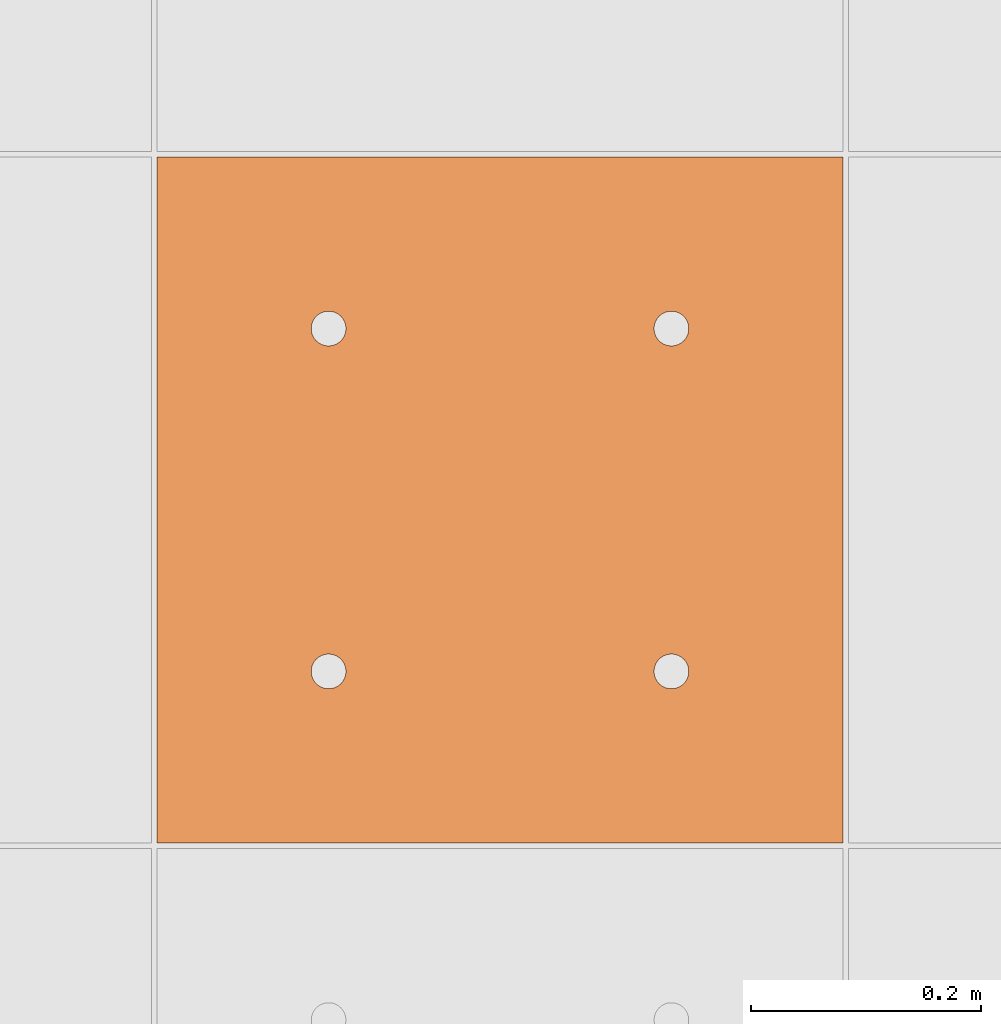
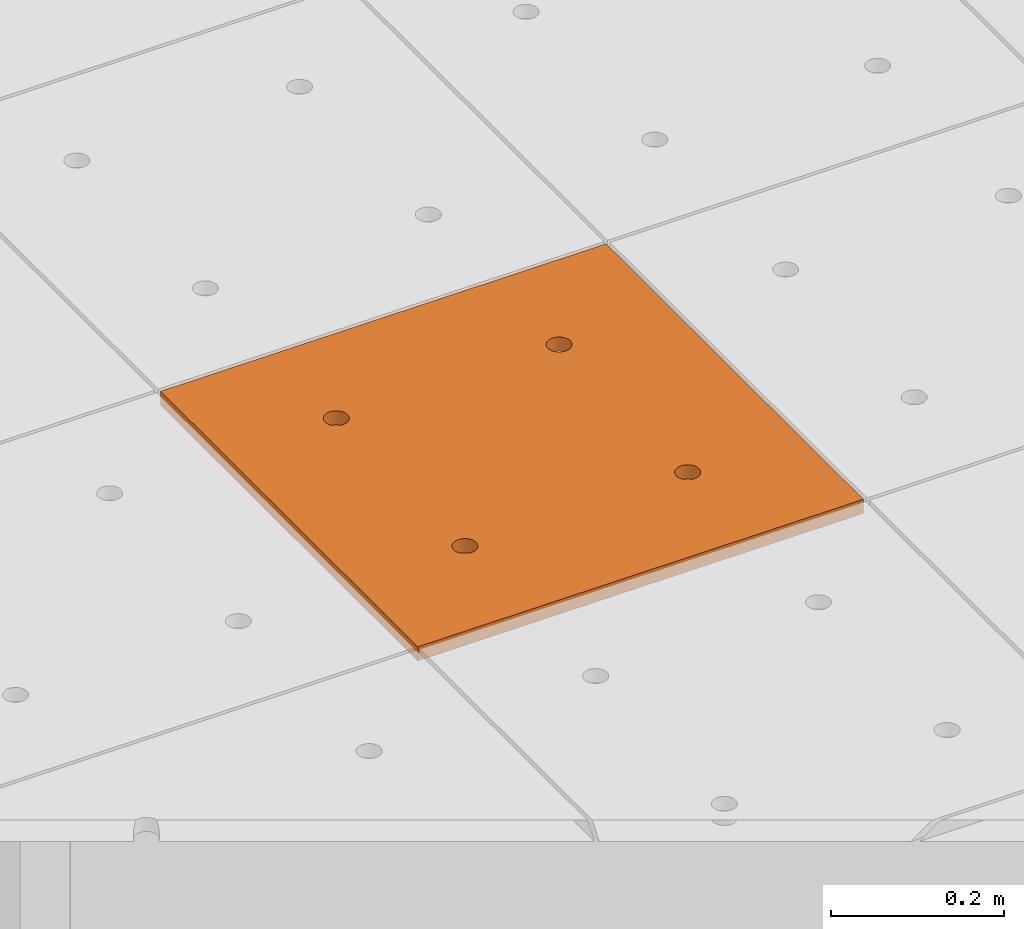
# One storey, part 267 of 338: 1 proxy, 1 element without a shape of its own.
"""IFC2X3 building model written with IfcOpenShell, lengths in millimetres."""

from ifc_helpers import new_model, entity, si_unit, converted_unit, derived_unit, money_unit, direction, frame, origin_with_axes, place, context, subcontext, project, spatial, faceted_brep, source, transform, mapped, material, type_object, type_shapes, element, aggregate, save


model = new_model("IFC2X3")

# Units and contexts
model_context = context("Model", 3, precision=0.01, world=origin_with_axes(), true_north=direction((0.0, 1.0)))
plan_context = context("Plan", 3, precision=0.01, world=origin_with_axes(), true_north=direction((0.0, 1.0)))
body_context = subcontext(model_context, "Body", "Model", "MODEL_VIEW")
ifc_project = project(units=[si_unit("LENGTHUNIT", "METRE", prefix="MILLI"), si_unit("AREAUNIT", "SQUARE_METRE"), si_unit("VOLUMEUNIT", "CUBIC_METRE"), converted_unit("PLANEANGLEUNIT", "DEGREE", entity("IfcPlaneAngleMeasure", 0.0174532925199), si_unit("PLANEANGLEUNIT", "RADIAN"), dimensions=[0, 0, 0, 0, 0, 0, 0]), money_unit("EUR"), converted_unit("TIMEUNIT", "Year", entity("IfcTimeMeasure", 31556926.0), si_unit("TIMEUNIT", "SECOND"), dimensions=[0, 0, 1, 0, 0, 0, 0]), si_unit("MASSUNIT", "GRAM", prefix="KILO"), si_unit("THERMODYNAMICTEMPERATUREUNIT", "DEGREE_CELSIUS"), si_unit("LUMINOUSINTENSITYUNIT", "LUMEN"), si_unit("ENERGYUNIT", "JOULE", prefix="MEGA"), derived_unit("THERMALCONDUCTANCEUNIT", [(si_unit("POWERUNIT", "WATT"), 1), (si_unit("LENGTHUNIT", "METRE"), -1), (si_unit("THERMODYNAMICTEMPERATUREUNIT", "KELVIN"), -1)]), derived_unit("SPECIFICHEATCAPACITYUNIT", [(si_unit("ENERGYUNIT", "JOULE"), 1), (si_unit("MASSUNIT", "GRAM", prefix="KILO"), -1), (si_unit("THERMODYNAMICTEMPERATUREUNIT", "KELVIN"), -1)]), derived_unit("MASSDENSITYUNIT", [(si_unit("MASSUNIT", "GRAM", prefix="KILO"), 1), (si_unit("VOLUMEUNIT", "CUBIC_METRE"), -1)])], contexts=[model_context, plan_context])

# Site, building, storey
site_placement = place(None, origin_with_axes())
site = spatial("IfcSite", under=ifc_project, at=site_placement, Name="Fortuinstraat Woensdrecht", CompositionType="ELEMENT")
building_placement = place(site_placement, origin_with_axes())
building = spatial("IfcBuilding", under=site, at=building_placement, Name="IKC Fortuna", CompositionType="ELEMENT")
storey_placement = place(building_placement, origin_with_axes())
storey = spatial("IfcBuildingStorey", under=building, at=storey_placement, Name="00 begane grond", CompositionType="ELEMENT", Elevation=0.0)

# Covering, proxy
covering_type = type_object("IfcCoveringType", Name="Curtain Wall Type", PredefinedType="CEILING")
covering_placement = place(storey_placement, frame((31656.9226967, 15748.5304598, 3210.0), z_axis=(0.0, 0.0, 1.0), x_axis=(1.0, 0.0, 0.0)))
covering = element("IfcCovering", 1, at=covering_placement, inside=storey, type_object=covering_type, Name="45_Plafondafwerking_P01", PredefinedType="CEILING")
ifc_material = material(Name="Gipsplaat")
building_element_proxy_type = type_object("IfcBuildingElementProxyType", Name="Main Panel 600 x 600 x 20", PredefinedType="NOTDEFINED")
shared_shape = source(origin_with_axes(), body_context, "Body", "Brep", [
    faceted_brep([(2.49999999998, 2.49999999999, -10.0), (300.0, 2.49999999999, -10.0), (300.0, 2.49999999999, 10.0), (2.49999999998, 2.49999999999, 10.0), (2.49999999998, 300.0, -10.0), (2.49999999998, 597.5, -10.0), (300.0, 597.5, -10.0), (597.5, 597.5, -10.0), (597.5, 300.0, -10.0), (597.5, 2.49999999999, -10.0), (166.25, 450.06232995, -10.0), (165.79423259, 452.64711538, -10.0), (164.896546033, 455.11348892, -10.0), (163.58421608, 457.38651108, -10.0), (161.897117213, 459.39711721, -10.0), (159.886511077, 461.08421608, -10.0), (157.613488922, 462.39654603, -10.0), (155.147115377, 463.29423259, -10.0), (152.562329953, 463.75, -10.0), (149.937670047, 463.75, -10.0), (147.352884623, 463.29423259, -10.0), (144.886511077, 462.39654603, -10.0), (142.613488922, 461.08421608, -10.0), (140.602882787, 459.39711721, -10.0), (138.91578392, 457.38651108, -10.0), (137.603453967, 455.11348892, -10.0), (136.705767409, 452.64711538, -10.0), (136.25, 450.06232995, -10.0), (136.25, 448.75, -10.0), (136.25, 447.43767005, -10.0), (136.705767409, 444.85288462, -10.0), (137.603453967, 442.38651108, -10.0), (138.91578392, 440.11348892, -10.0), (140.602882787, 438.10288279, -10.0), (142.613488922, 436.41578392, -10.0), (144.886511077, 435.10345397, -10.0), (147.352884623, 434.20576741, -10.0), (149.937670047, 433.75, -10.0), (152.562329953, 433.75, -10.0), (155.147115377, 434.20576741, -10.0), (157.613488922, 435.10345397, -10.0), (159.886511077, 436.41578392, -10.0), (161.897117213, 438.10288279, -10.0), (163.58421608, 440.11348892, -10.0), (164.896546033, 442.38651108, -10.0), (165.79423259, 444.85288462, -10.0), (166.25, 447.43767005, -10.0), (463.75, 450.06232995, -10.0), (463.29423259, 452.64711538, -10.0), (462.396546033, 455.11348892, -10.0), (461.08421608, 457.38651108, -10.0), (459.397117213, 459.39711721, -10.0), (457.386511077, 461.08421608, -10.0), (455.113488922, 462.39654603, -10.0), (452.647115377, 463.29423259, -10.0), (450.062329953, 463.75, -10.0), (447.437670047, 463.75, -10.0), (444.852884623, 463.29423259, -10.0), (442.386511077, 462.39654603, -10.0), (440.113488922, 461.08421608, -10.0), (438.102882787, 459.39711721, -10.0), (436.41578392, 457.38651108, -10.0), (435.103453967, 455.11348892, -10.0), (434.205767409, 452.64711538, -10.0), (433.75, 450.06232995, -10.0), (433.75, 448.75, -10.0), (433.75, 447.43767005, -10.0), (434.205767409, 444.85288462, -10.0), (435.103453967, 442.38651108, -10.0), (436.41578392, 440.11348892, -10.0), (438.102882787, 438.10288279, -10.0), (440.113488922, 436.41578392, -10.0), (442.386511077, 435.10345397, -10.0), (444.852884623, 434.20576741, -10.0), (447.437670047, 433.75, -10.0), (450.062329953, 433.75, -10.0), (452.647115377, 434.20576741, -10.0), (455.113488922, 435.10345397, -10.0), (457.386511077, 436.41578392, -10.0), (459.397117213, 438.10288279, -10.0), (461.08421608, 440.11348892, -10.0), (462.396546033, 442.38651108, -10.0), (463.29423259, 444.85288462, -10.0), (463.75, 447.43767005, -10.0), (463.75, 152.56232995, -10.0), (463.29423259, 155.14711538, -10.0), (462.396546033, 157.61348892, -10.0), (461.08421608, 159.88651108, -10.0), (459.397117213, 161.89711721, -10.0), (457.386511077, 163.58421608, -10.0), (455.113488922, 164.89654603, -10.0), (452.647115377, 165.79423259, -10.0), (450.062329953, 166.25, -10.0), (447.437670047, 166.25, -10.0), (444.852884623, 165.79423259, -10.0), (442.386511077, 164.89654603, -10.0), (440.113488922, 163.58421608, -10.0), (438.102882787, 161.89711721, -10.0), (436.41578392, 159.88651108, -10.0), (435.103453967, 157.61348892, -10.0), (434.205767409, 155.14711538, -10.0), (433.75, 152.56232995, -10.0), (433.75, 151.25, -10.0), (433.75, 149.93767005, -10.0), (434.205767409, 147.35288462, -10.0), (435.103453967, 144.88651108, -10.0), (436.41578392, 142.61348892, -10.0), (438.102882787, 140.60288279, -10.0), (440.113488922, 138.91578392, -10.0), (442.386511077, 137.60345397, -10.0), (444.852884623, 136.70576741, -10.0), (447.437670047, 136.25, -10.0), (450.062329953, 136.25, -10.0), (452.647115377, 136.70576741, -10.0), (455.113488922, 137.60345397, -10.0), (457.386511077, 138.91578392, -10.0), (459.397117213, 140.60288279, -10.0), (461.08421608, 142.61348892, -10.0), (462.396546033, 144.88651108, -10.0), (463.29423259, 147.35288462, -10.0), (463.75, 149.93767005, -10.0), (166.25, 152.56232995, -10.0), (165.79423259, 155.14711538, -10.0), (164.896546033, 157.61348892, -10.0), (163.58421608, 159.88651108, -10.0), (161.897117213, 161.89711721, -10.0), (159.886511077, 163.58421608, -10.0), (157.613488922, 164.89654603, -10.0), (155.147115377, 165.79423259, -10.0), (152.562329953, 166.25, -10.0), (149.937670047, 166.25, -10.0), (147.352884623, 165.79423259, -10.0), (144.886511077, 164.89654603, -10.0), (142.613488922, 163.58421608, -10.0), (140.602882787, 161.89711721, -10.0), (138.91578392, 159.88651108, -10.0), (137.603453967, 157.61348892, -10.0), (136.705767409, 155.14711538, -10.0), (136.25, 152.56232995, -10.0), (136.25, 151.25, -10.0), (136.25, 149.93767005, -10.0), (136.705767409, 147.35288462, -10.0), (137.603453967, 144.88651108, -10.0), (138.91578392, 142.61348892, -10.0), (140.602882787, 140.60288279, -10.0), (142.613488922, 138.91578392, -10.0), (144.886511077, 137.60345397, -10.0), (147.352884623, 136.70576741, -10.0), (149.937670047, 136.25, -10.0), (152.562329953, 136.25, -10.0), (155.147115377, 136.70576741, -10.0), (157.613488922, 137.60345397, -10.0), (159.886511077, 138.91578392, -10.0), (161.897117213, 140.60288279, -10.0), (163.58421608, 142.61348892, -10.0), (164.896546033, 144.88651108, -10.0), (165.79423259, 147.35288462, -10.0), (166.25, 149.93767005, -10.0), (597.5, 2.49999999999, 10.0), (597.5, 300.0, 10.0), (597.5, 597.5, 10.0), (300.0, 597.5, 10.0), (2.49999999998, 597.5, 10.0), (2.49999999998, 300.0, 10.0), (166.25, 450.06232995, 10.0), (166.25, 447.43767005, 10.0), (165.79423259, 444.85288462, 10.0), (164.896546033, 442.38651108, 10.0), (163.58421608, 440.11348892, 10.0), (161.897117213, 438.10288279, 10.0), (159.886511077, 436.41578392, 10.0), (157.613488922, 435.10345397, 10.0), (155.147115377, 434.20576741, 10.0), (152.562329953, 433.75, 10.0), (149.937670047, 433.75, 10.0), (147.352884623, 434.20576741, 10.0), (144.886511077, 435.10345397, 10.0), (142.613488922, 436.41578392, 10.0), (140.602882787, 438.10288279, 10.0), (138.91578392, 440.11348892, 10.0), (137.603453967, 442.38651108, 10.0), (136.705767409, 444.85288462, 10.0), (136.25, 447.43767005, 10.0), (136.25, 448.75, 10.0), (136.25, 450.06232995, 10.0), (136.705767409, 452.64711538, 10.0), (137.603453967, 455.11348892, 10.0), (138.91578392, 457.38651108, 10.0), (140.602882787, 459.39711721, 10.0), (142.613488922, 461.08421608, 10.0), (144.886511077, 462.39654603, 10.0), (147.352884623, 463.29423259, 10.0), (149.937670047, 463.75, 10.0), (152.562329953, 463.75, 10.0), (155.147115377, 463.29423259, 10.0), (157.613488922, 462.39654603, 10.0), (159.886511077, 461.08421608, 10.0), (161.897117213, 459.39711721, 10.0), (163.58421608, 457.38651108, 10.0), (164.896546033, 455.11348892, 10.0), (165.79423259, 452.64711538, 10.0), (463.75, 450.06232995, 10.0), (463.75, 447.43767005, 10.0), (463.29423259, 444.85288462, 10.0), (462.396546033, 442.38651108, 10.0), (461.08421608, 440.11348892, 10.0), (459.397117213, 438.10288279, 10.0), (457.386511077, 436.41578392, 10.0), (455.113488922, 435.10345397, 10.0), (452.647115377, 434.20576741, 10.0), (450.062329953, 433.75, 10.0), (447.437670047, 433.75, 10.0), (444.852884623, 434.20576741, 10.0), (442.386511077, 435.10345397, 10.0), (440.113488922, 436.41578392, 10.0), (438.102882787, 438.10288279, 10.0), (436.41578392, 440.11348892, 10.0), (435.103453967, 442.38651108, 10.0), (434.205767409, 444.85288462, 10.0), (433.75, 447.43767005, 10.0), (433.75, 448.75, 10.0), (433.75, 450.06232995, 10.0), (434.205767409, 452.64711538, 10.0), (435.103453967, 455.11348892, 10.0), (436.41578392, 457.38651108, 10.0), (438.102882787, 459.39711721, 10.0), (440.113488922, 461.08421608, 10.0), (442.386511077, 462.39654603, 10.0), (444.852884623, 463.29423259, 10.0), (447.437670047, 463.75, 10.0), (450.062329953, 463.75, 10.0), (452.647115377, 463.29423259, 10.0), (455.113488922, 462.39654603, 10.0), (457.386511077, 461.08421608, 10.0), (459.397117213, 459.39711721, 10.0), (461.08421608, 457.38651108, 10.0), (462.396546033, 455.11348892, 10.0), (463.29423259, 452.64711538, 10.0), (463.75, 152.56232995, 10.0), (463.75, 149.93767005, 10.0), (463.29423259, 147.35288462, 10.0), (462.396546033, 144.88651108, 10.0), (461.08421608, 142.61348892, 10.0), (459.397117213, 140.60288279, 10.0), (457.386511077, 138.91578392, 10.0), (455.113488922, 137.60345397, 10.0), (452.647115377, 136.70576741, 10.0), (450.062329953, 136.25, 10.0), (447.437670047, 136.25, 10.0), (444.852884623, 136.70576741, 10.0), (442.386511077, 137.60345397, 10.0), (440.113488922, 138.91578392, 10.0), (438.102882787, 140.60288279, 10.0), (436.41578392, 142.61348892, 10.0), (435.103453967, 144.88651108, 10.0), (434.205767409, 147.35288462, 10.0), (433.75, 149.93767005, 10.0), (433.75, 151.25, 10.0), (433.75, 152.56232995, 10.0), (434.205767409, 155.14711538, 10.0), (435.103453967, 157.61348892, 10.0), (436.41578392, 159.88651108, 10.0), (438.102882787, 161.89711721, 10.0), (440.113488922, 163.58421608, 10.0), (442.386511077, 164.89654603, 10.0), (444.852884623, 165.79423259, 10.0), (447.437670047, 166.25, 10.0), (450.062329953, 166.25, 10.0), (452.647115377, 165.79423259, 10.0), (455.113488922, 164.89654603, 10.0), (457.386511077, 163.58421608, 10.0), (459.397117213, 161.89711721, 10.0), (461.08421608, 159.88651108, 10.0), (462.396546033, 157.61348892, 10.0), (463.29423259, 155.14711538, 10.0), (166.25, 152.56232995, 10.0), (166.25, 149.93767005, 10.0), (165.79423259, 147.35288462, 10.0), (164.896546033, 144.88651108, 10.0), (163.58421608, 142.61348892, 10.0), (161.897117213, 140.60288279, 10.0), (159.886511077, 138.91578392, 10.0), (157.613488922, 137.60345397, 10.0), (155.147115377, 136.70576741, 10.0), (152.562329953, 136.25, 10.0), (149.937670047, 136.25, 10.0), (147.352884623, 136.70576741, 10.0), (144.886511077, 137.60345397, 10.0), (142.613488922, 138.91578392, 10.0), (140.602882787, 140.60288279, 10.0), (138.91578392, 142.61348892, 10.0), (137.603453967, 144.88651108, 10.0), (136.705767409, 147.35288462, 10.0), (136.25, 149.93767005, 10.0), (136.25, 151.25, 10.0), (136.25, 152.56232995, 10.0), (136.705767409, 155.14711538, 10.0), (137.603453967, 157.61348892, 10.0), (138.91578392, 159.88651108, 10.0), (140.602882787, 161.89711721, 10.0), (142.613488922, 163.58421608, 10.0), (144.886511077, 164.89654603, 10.0), (147.352884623, 165.79423259, 10.0), (149.937670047, 166.25, 10.0), (152.562329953, 166.25, 10.0), (155.147115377, 165.79423259, 10.0), (157.613488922, 164.89654603, 10.0), (159.886511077, 163.58421608, 10.0), (161.897117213, 161.89711721, 10.0), (163.58421608, 159.88651108, 10.0), (164.896546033, 157.61348892, 10.0), (165.79423259, 155.14711538, 10.0)], [[[0, 1, 2, 3]], [[0, 4, 5, 6, 7, 8, 9, 1], [10, 11, 12, 13, 14, 15, 16, 17, 18, 19, 20, 21, 22, 23, 24, 25, 26, 27, 28, 29, 30, 31, 32, 33, 34, 35, 36, 37, 38, 39, 40, 41, 42, 43, 44, 45, 46], [47, 48, 49, 50, 51, 52, 53, 54, 55, 56, 57, 58, 59, 60, 61, 62, 63, 64, 65, 66, 67, 68, 69, 70, 71, 72, 73, 74, 75, 76, 77, 78, 79, 80, 81, 82, 83], [84, 85, 86, 87, 88, 89, 90, 91, 92, 93, 94, 95, 96, 97, 98, 99, 100, 101, 102, 103, 104, 105, 106, 107, 108, 109, 110, 111, 112, 113, 114, 115, 116, 117, 118, 119, 120], [121, 122, 123, 124, 125, 126, 127, 128, 129, 130, 131, 132, 133, 134, 135, 136, 137, 138, 139, 140, 141, 142, 143, 144, 145, 146, 147, 148, 149, 150, 151, 152, 153, 154, 155, 156, 157]], [[1, 9, 158, 2]], [[3, 2, 158, 159, 160, 161, 162, 163], [164, 165, 166, 167, 168, 169, 170, 171, 172, 173, 174, 175, 176, 177, 178, 179, 180, 181, 182, 183, 184, 185, 186, 187, 188, 189, 190, 191, 192, 193, 194, 195, 196, 197, 198, 199, 200], [201, 202, 203, 204, 205, 206, 207, 208, 209, 210, 211, 212, 213, 214, 215, 216, 217, 218, 219, 220, 221, 222, 223, 224, 225, 226, 227, 228, 229, 230, 231, 232, 233, 234, 235, 236, 237], [238, 239, 240, 241, 242, 243, 244, 245, 246, 247, 248, 249, 250, 251, 252, 253, 254, 255, 256, 257, 258, 259, 260, 261, 262, 263, 264, 265, 266, 267, 268, 269, 270, 271, 272, 273, 274], [275, 276, 277, 278, 279, 280, 281, 282, 283, 284, 285, 286, 287, 288, 289, 290, 291, 292, 293, 294, 295, 296, 297, 298, 299, 300, 301, 302, 303, 304, 305, 306, 307, 308, 309, 310, 311]], [[4, 0, 3, 163]], [[5, 4, 163, 162]], [[6, 5, 162, 161]], [[7, 6, 161, 160]], [[8, 7, 160, 159]], [[9, 8, 159, 158]], [[11, 10, 164, 200]], [[12, 11, 200, 199]], [[13, 12, 199, 198]], [[14, 13, 198, 197]], [[15, 14, 197, 196]], [[16, 15, 196, 195]], [[17, 16, 195, 194]], [[18, 17, 194, 193]], [[19, 18, 193, 192]], [[20, 19, 192, 191]], [[21, 20, 191, 190]], [[22, 21, 190, 189]], [[23, 22, 189, 188]], [[24, 23, 188, 187]], [[25, 24, 187, 186]], [[26, 25, 186, 185]], [[27, 26, 185, 184]], [[28, 27, 184, 183]], [[29, 28, 183, 182]], [[30, 29, 182, 181]], [[31, 30, 181, 180]], [[32, 31, 180, 179]], [[33, 32, 179, 178]], [[34, 33, 178, 177]], [[35, 34, 177, 176]], [[36, 35, 176, 175]], [[37, 36, 175, 174]], [[38, 37, 174, 173]], [[39, 38, 173, 172]], [[40, 39, 172, 171]], [[41, 40, 171, 170]], [[42, 41, 170, 169]], [[43, 42, 169, 168]], [[44, 43, 168, 167]], [[45, 44, 167, 166]], [[46, 45, 166, 165]], [[10, 46, 165, 164]], [[48, 47, 201, 237]], [[49, 48, 237, 236]], [[50, 49, 236, 235]], [[51, 50, 235, 234]], [[52, 51, 234, 233]], [[53, 52, 233, 232]], [[54, 53, 232, 231]], [[55, 54, 231, 230]], [[56, 55, 230, 229]], [[57, 56, 229, 228]], [[58, 57, 228, 227]], [[59, 58, 227, 226]], [[60, 59, 226, 225]], [[61, 60, 225, 224]], [[62, 61, 224, 223]], [[63, 62, 223, 222]], [[64, 63, 222, 221]], [[65, 64, 221, 220]], [[66, 65, 220, 219]], [[67, 66, 219, 218]], [[68, 67, 218, 217]], [[69, 68, 217, 216]], [[70, 69, 216, 215]], [[71, 70, 215, 214]], [[72, 71, 214, 213]], [[73, 72, 213, 212]], [[74, 73, 212, 211]], [[75, 74, 211, 210]], [[76, 75, 210, 209]], [[77, 76, 209, 208]], [[78, 77, 208, 207]], [[79, 78, 207, 206]], [[80, 79, 206, 205]], [[81, 80, 205, 204]], [[82, 81, 204, 203]], [[83, 82, 203, 202]], [[47, 83, 202, 201]], [[85, 84, 238, 274]], [[86, 85, 274, 273]], [[87, 86, 273, 272]], [[88, 87, 272, 271]], [[89, 88, 271, 270]], [[90, 89, 270, 269]], [[91, 90, 269, 268]], [[92, 91, 268, 267]], [[93, 92, 267, 266]], [[94, 93, 266, 265]], [[95, 94, 265, 264]], [[96, 95, 264, 263]], [[97, 96, 263, 262]], [[98, 97, 262, 261]], [[99, 98, 261, 260]], [[100, 99, 260, 259]], [[101, 100, 259, 258]], [[102, 101, 258, 257]], [[103, 102, 257, 256]], [[104, 103, 256, 255]], [[105, 104, 255, 254]], [[106, 105, 254, 253]], [[107, 106, 253, 252]], [[108, 107, 252, 251]], [[109, 108, 251, 250]], [[110, 109, 250, 249]], [[111, 110, 249, 248]], [[112, 111, 248, 247]], [[113, 112, 247, 246]], [[114, 113, 246, 245]], [[115, 114, 245, 244]], [[116, 115, 244, 243]], [[117, 116, 243, 242]], [[118, 117, 242, 241]], [[119, 118, 241, 240]], [[120, 119, 240, 239]], [[84, 120, 239, 238]], [[122, 121, 275, 311]], [[123, 122, 311, 310]], [[124, 123, 310, 309]], [[125, 124, 309, 308]], [[126, 125, 308, 307]], [[127, 126, 307, 306]], [[128, 127, 306, 305]], [[129, 128, 305, 304]], [[130, 129, 304, 303]], [[131, 130, 303, 302]], [[132, 131, 302, 301]], [[133, 132, 301, 300]], [[134, 133, 300, 299]], [[135, 134, 299, 298]], [[136, 135, 298, 297]], [[137, 136, 297, 296]], [[138, 137, 296, 295]], [[139, 138, 295, 294]], [[140, 139, 294, 293]], [[141, 140, 293, 292]], [[142, 141, 292, 291]], [[143, 142, 291, 290]], [[144, 143, 290, 289]], [[145, 144, 289, 288]], [[146, 145, 288, 287]], [[147, 146, 287, 286]], [[148, 147, 286, 285]], [[149, 148, 285, 284]], [[150, 149, 284, 283]], [[151, 150, 283, 282]], [[152, 151, 282, 281]], [[153, 152, 281, 280]], [[154, 153, 280, 279]], [[155, 154, 279, 278]], [[156, 155, 278, 277]], [[157, 156, 277, 276]], [[121, 157, 276, 275]]]),
])
type_shapes(building_element_proxy_type, [shared_shape])
proxy_placement = place(covering_placement, frame((600.0, 0.0, 0.0), z_axis=(0.0, 0.0, 1.0), x_axis=(1.0, 0.0, 0.0)))
proxy = element("IfcBuildingElementProxy", 2, at=proxy_placement, type_object=building_element_proxy_type, material=ifc_material, Name="__600x667 Rockfon Krios", context=body_context, shape_type="MappedRepresentation", body=[
    mapped(shared_shape, transform((300.0, 300.0, 0.0), x_axis=(-1.0, 0.0, 0.0), y_axis=(0.0, -1.0, 0.0), z_axis=(0.0, 0.0, 1.0))),
])
aggregate(covering, [proxy])

save(model, "model.ifc")
